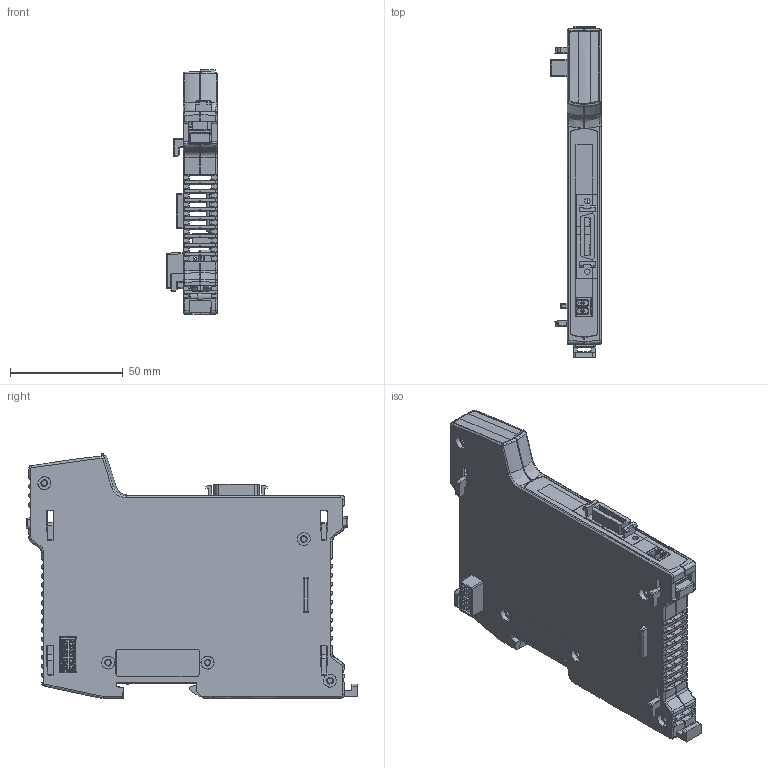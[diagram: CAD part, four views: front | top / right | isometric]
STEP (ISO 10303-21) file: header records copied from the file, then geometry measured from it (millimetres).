
FILE_DESCRIPTION(/* description */ (''),/* implementation_level */ '2;1');
FILE_NAME(/* name */ 'FLEXSL~1',/* time_stamp */ '2017-12-20T09:46:00+00:00',/* author */ (''),/* organization */ (''),/* preprocessor_version */ 'ST-DEVELOPER v15',/* originating_system */ '',/* authorisation */ '');
FILE_SCHEMA (('AUTOMOTIVE_DESIGN'));
Products named in the file (1): Document
Bounding box: 22.47 x 146.72 x 108.56 mm (x, y, z)
Volume: 11894.5 mm3; surface area: 86671.8 mm2
Topology: 74 solids, 84 shells, 6124 faces, 16971 edges, 10751 vertices
Faces by surface type: plane 3873, bspline 2251
Entity records: 240177 total; most frequent: CARTESIAN_POINT 134337, ORIENTED_EDGE 33164, EDGE_CURVE 16917, B_SPLINE_CURVE_WITH_KNOTS 13314, VERTEX_POINT 10752, EDGE_LOOP 6432, ADVANCED_FACE 6124, FACE_OUTER_BOUND 6124
